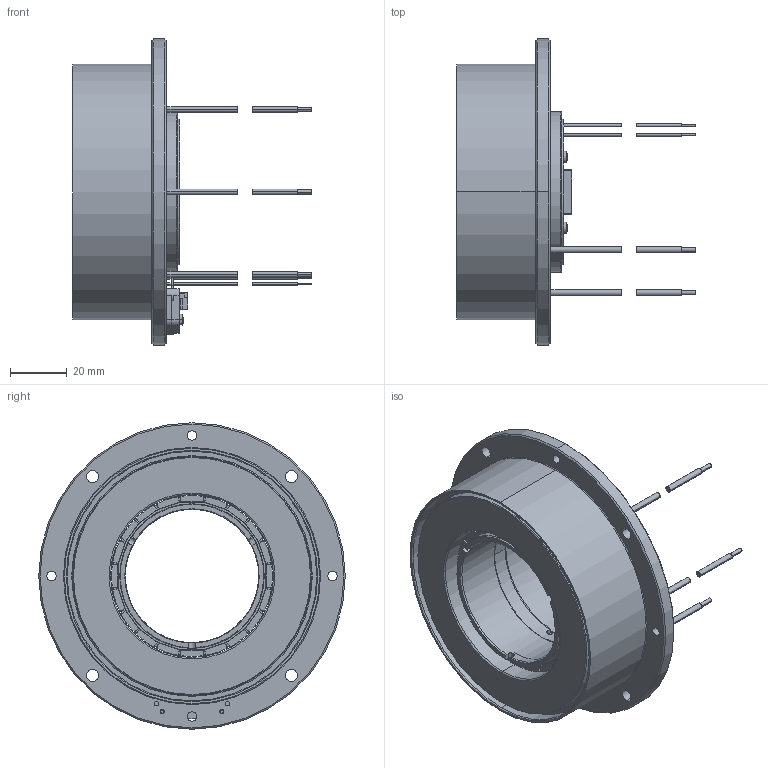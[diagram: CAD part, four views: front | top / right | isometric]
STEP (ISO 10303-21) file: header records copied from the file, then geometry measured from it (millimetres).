
FILE_DESCRIPTION((''),'2;1');
FILE_NAME('EC_FRAMELESS_DT85M-TSX-MAG-RAD','2022-11-15T15:30:16',('MMAGVISI'),(''),'CREO PARAMETRIC BY PTC INC, 2020342','CREO PARAMETRIC BY PTC INC, 2020342','');
FILE_SCHEMA(('CONFIG_CONTROL_DESIGN','SHAPE_APPEARANCE_LAYERS_GROUPS'));
Length unit declared in the file: millimetre
Products named in the file (1): EC_FRAMELESS_DT85M-TSX-MAG-RAD
Bounding box: 84.22 x 108 x 108 mm (x, y, z)
Volume: 150221.2 mm3; surface area: 55650.5 mm2
Topology: 27 solids, 27 shells, 839 faces, 2336 edges, 1566 vertices
Faces by surface type: plane 466, cylinder 237, torus 80, cone 52, sphere 4
Entity records: 35543 total; most frequent: CARTESIAN_POINT 6578, ORIENTED_EDGE 4668, DIRECTION 4367, PRESENTATION_STYLE_ASSIGNMENT 2361, STYLED_ITEM 2361, CURVE_STYLE 2334, EDGE_CURVE 2334, VERTEX_POINT 1566
